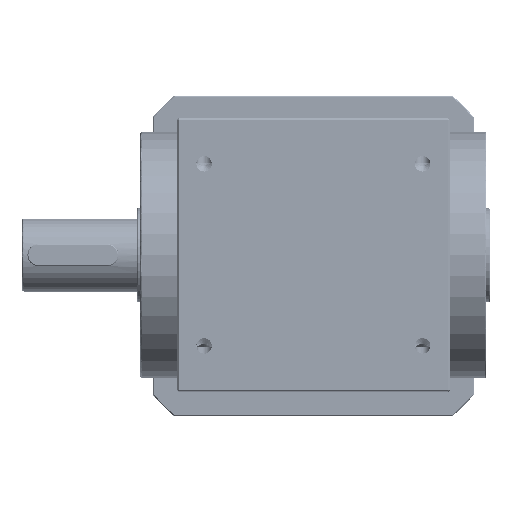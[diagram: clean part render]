
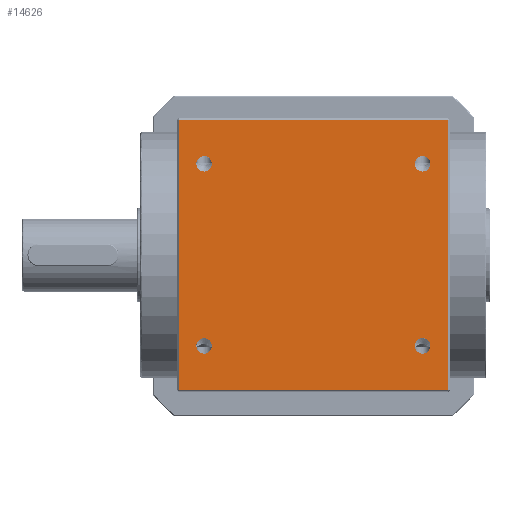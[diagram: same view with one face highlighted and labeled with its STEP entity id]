
A CAD part, top view. The second image highlights one B-rep face of the part: STEP entity #14626.
In plain terms, the highlighted planar face has unit normal (0, 0, 1) as drawn and (0, 1, 0) by its records, which use the part's own axes.
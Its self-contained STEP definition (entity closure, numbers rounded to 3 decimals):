
#27 = AXIS2_PLACEMENT_3D ( 'NONE', #43677, #43511, #43486 ) ;
#388 = VERTEX_POINT ( 'NONE', #97197 ) ;
#1314 = CIRCLE ( 'NONE', #44054, 4.25 ) ;
#1973 = ORIENTED_EDGE ( 'NONE', *, *, #13237, .F. ) ;
#1979 = EDGE_LOOP ( 'NONE', ( #126137, #143293 ) ) ;
#3452 = DIRECTION ( 'NONE',  ( 0., 0., -1. ) ) ;
#3808 = DIRECTION ( 'NONE',  ( 0., -1., 0. ) ) ;
#3938 = CARTESIAN_POINT ( 'NONE',  ( -75., 75., 75. ) ) ;
#5117 = PLANE ( 'NONE',  #50382 ) ;
#6454 = VERTEX_POINT ( 'NONE', #8479 ) ;
#7866 = DIRECTION ( 'NONE',  ( 0., 0., -1. ) ) ;
#8198 = DIRECTION ( 'NONE',  ( 0., 0., 1. ) ) ;
#8327 = DIRECTION ( 'NONE',  ( 0., 1., 0. ) ) ;
#8430 = EDGE_CURVE ( 'NONE', #21181, #15330, #100685, .T. ) ;
#8479 = CARTESIAN_POINT ( 'NONE',  ( -74., 75., 74. ) ) ;
#8508 = CARTESIAN_POINT ( 'NONE',  ( 60., 75., -50. ) ) ;
#9227 = EDGE_LOOP ( 'NONE', ( #132858, #73665, #142470, #75790 ) ) ;
#9347 = CARTESIAN_POINT ( 'NONE',  ( -74., 75., 75. ) ) ;
#10248 = CARTESIAN_POINT ( 'NONE',  ( 60., 75., -45.75 ) ) ;
#11798 = AXIS2_PLACEMENT_3D ( 'NONE', #61776, #140362, #73126 ) ;
#13059 = ORIENTED_EDGE ( 'NONE', *, *, #86286, .T. ) ;
#13237 = EDGE_CURVE ( 'NONE', #47676, #65146, #141779, .T. ) ;
#14626 = ADVANCED_FACE ( 'NONE', ( #90765, #25605, #23617, #22070, #15230 ), #5117, .F. ) ;
#15230 = FACE_OUTER_BOUND ( 'NONE', #9227, .T. ) ;
#15330 = VERTEX_POINT ( 'NONE', #93677 ) ;
#15901 = EDGE_LOOP ( 'NONE', ( #48401, #127241 ) ) ;
#17105 = AXIS2_PLACEMENT_3D ( 'NONE', #64047, #63888, #63865 ) ;
#17519 = LINE ( 'NONE', #46195, #19092 ) ;
#19092 = VECTOR ( 'NONE', #113716, 1000. ) ;
#21168 = DIRECTION ( 'NONE',  ( 0., 0., 1. ) ) ;
#21181 = VERTEX_POINT ( 'NONE', #55114 ) ;
#21320 = DIRECTION ( 'NONE',  ( 0., 1., 0. ) ) ;
#21334 = CARTESIAN_POINT ( 'NONE',  ( -60., 75., -50. ) ) ;
#21534 = AXIS2_PLACEMENT_3D ( 'NONE', #134434, #34714, #87062 ) ;
#22070 = FACE_BOUND ( 'NONE', #15901, .T. ) ;
#22822 = DIRECTION ( 'NONE',  ( 0., -1., 0. ) ) ;
#23617 = FACE_BOUND ( 'NONE', #109718, .T. ) ;
#24191 = AXIS2_PLACEMENT_3D ( 'NONE', #64332, #142896, #75690 ) ;
#25605 = FACE_BOUND ( 'NONE', #1979, .T. ) ;
#26110 = CARTESIAN_POINT ( 'NONE',  ( -60., 75., -54.25 ) ) ;
#30137 = VECTOR ( 'NONE', #116761, 1000. ) ;
#31396 = LINE ( 'NONE', #116723, #30137 ) ;
#33556 = CARTESIAN_POINT ( 'NONE',  ( 74., 75., -74. ) ) ;
#34481 = CIRCLE ( 'NONE', #49874, 4.25 ) ;
#34714 = DIRECTION ( 'NONE',  ( 0., 1., 0. ) ) ;
#35548 = EDGE_CURVE ( 'NONE', #57161, #92175, #31396, .T. ) ;
#41569 = VECTOR ( 'NONE', #7866, 1000. ) ;
#43237 = EDGE_CURVE ( 'NONE', #6454, #57161, #134896, .T. ) ;
#43474 = EDGE_CURVE ( 'NONE', #388, #50652, #44783, .T. ) ;
#43486 = DIRECTION ( 'NONE',  ( 0., 0., 1. ) ) ;
#43511 = DIRECTION ( 'NONE',  ( 0., 1., 0. ) ) ;
#43677 = CARTESIAN_POINT ( 'NONE',  ( 60., 75., -50. ) ) ;
#44054 = AXIS2_PLACEMENT_3D ( 'NONE', #90475, #22822, #101835 ) ;
#44783 = CIRCLE ( 'NONE', #21534, 4.25 ) ;
#44940 = EDGE_CURVE ( 'NONE', #65146, #47676, #137199, .T. ) ;
#44957 = ORIENTED_EDGE ( 'NONE', *, *, #139784, .T. ) ;
#46195 = CARTESIAN_POINT ( 'NONE',  ( 0., 75., 74. ) ) ;
#47153 = CIRCLE ( 'NONE', #24191, 4.25 ) ;
#47676 = VERTEX_POINT ( 'NONE', #133282 ) ;
#48401 = ORIENTED_EDGE ( 'NONE', *, *, #43474, .F. ) ;
#49874 = AXIS2_PLACEMENT_3D ( 'NONE', #21334, #21320, #21168 ) ;
#50382 = AXIS2_PLACEMENT_3D ( 'NONE', #3938, #3808, #3452 ) ;
#50652 = VERTEX_POINT ( 'NONE', #26110 ) ;
#51705 = EDGE_CURVE ( 'NONE', #92175, #111028, #115303, .T. ) ;
#52597 = EDGE_CURVE ( 'NONE', #50652, #388, #34481, .T. ) ;
#55114 = CARTESIAN_POINT ( 'NONE',  ( -60., 75., 54.25 ) ) ;
#57161 = VERTEX_POINT ( 'NONE', #139053 ) ;
#58428 = CARTESIAN_POINT ( 'NONE',  ( 74., 75., 74. ) ) ;
#60546 = EDGE_LOOP ( 'NONE', ( #44957, #13059 ) ) ;
#61776 = CARTESIAN_POINT ( 'NONE',  ( 60., 75., 50. ) ) ;
#63865 = DIRECTION ( 'NONE',  ( 0., 0., 1. ) ) ;
#63888 = DIRECTION ( 'NONE',  ( 0., -1., 0. ) ) ;
#64047 = CARTESIAN_POINT ( 'NONE',  ( -60., 75., 50. ) ) ;
#64332 = CARTESIAN_POINT ( 'NONE',  ( 60., 75., 50. ) ) ;
#64584 = VERTEX_POINT ( 'NONE', #118400 ) ;
#65146 = VERTEX_POINT ( 'NONE', #10248 ) ;
#73126 = DIRECTION ( 'NONE',  ( 0., 0., 1. ) ) ;
#73665 = ORIENTED_EDGE ( 'NONE', *, *, #51705, .F. ) ;
#75690 = DIRECTION ( 'NONE',  ( 0., 0., 1. ) ) ;
#75790 = ORIENTED_EDGE ( 'NONE', *, *, #43237, .F. ) ;
#86286 = EDGE_CURVE ( 'NONE', #118852, #64584, #47153, .T. ) ;
#86510 = EDGE_CURVE ( 'NONE', #15330, #21181, #1314, .T. ) ;
#87062 = DIRECTION ( 'NONE',  ( 0., 0., 1. ) ) ;
#88005 = EDGE_CURVE ( 'NONE', #6454, #111028, #17519, .T. ) ;
#90475 = CARTESIAN_POINT ( 'NONE',  ( -60., 75., 50. ) ) ;
#90765 = FACE_BOUND ( 'NONE', #60546, .T. ) ;
#92175 = VERTEX_POINT ( 'NONE', #33556 ) ;
#93677 = CARTESIAN_POINT ( 'NONE',  ( -60., 75., 45.75 ) ) ;
#94372 = VECTOR ( 'NONE', #120399, 1000. ) ;
#97197 = CARTESIAN_POINT ( 'NONE',  ( -60., 75., -45.75 ) ) ;
#98458 = CARTESIAN_POINT ( 'NONE',  ( 60., 75., 45.75 ) ) ;
#100685 = CIRCLE ( 'NONE', #17105, 4.25 ) ;
#101835 = DIRECTION ( 'NONE',  ( 0., 0., 1. ) ) ;
#102789 = CIRCLE ( 'NONE', #11798, 4.25 ) ;
#109718 = EDGE_LOOP ( 'NONE', ( #112382, #1973 ) ) ;
#111028 = VERTEX_POINT ( 'NONE', #58428 ) ;
#112382 = ORIENTED_EDGE ( 'NONE', *, *, #44940, .F. ) ;
#113716 = DIRECTION ( 'NONE',  ( 1., 0., 0. ) ) ;
#115303 = LINE ( 'NONE', #120233, #94372 ) ;
#116723 = CARTESIAN_POINT ( 'NONE',  ( -75., 75., -74. ) ) ;
#116761 = DIRECTION ( 'NONE',  ( 1., 0., 0. ) ) ;
#117026 = AXIS2_PLACEMENT_3D ( 'NONE', #8508, #8327, #8198 ) ;
#118400 = CARTESIAN_POINT ( 'NONE',  ( 60., 75., 54.25 ) ) ;
#118852 = VERTEX_POINT ( 'NONE', #98458 ) ;
#120233 = CARTESIAN_POINT ( 'NONE',  ( 74., 75., 75. ) ) ;
#120399 = DIRECTION ( 'NONE',  ( 0., 0., 1. ) ) ;
#126137 = ORIENTED_EDGE ( 'NONE', *, *, #8430, .T. ) ;
#127241 = ORIENTED_EDGE ( 'NONE', *, *, #52597, .F. ) ;
#132858 = ORIENTED_EDGE ( 'NONE', *, *, #88005, .T. ) ;
#133282 = CARTESIAN_POINT ( 'NONE',  ( 60., 75., -54.25 ) ) ;
#134434 = CARTESIAN_POINT ( 'NONE',  ( -60., 75., -50. ) ) ;
#134896 = LINE ( 'NONE', #9347, #41569 ) ;
#137199 = CIRCLE ( 'NONE', #27, 4.25 ) ;
#139053 = CARTESIAN_POINT ( 'NONE',  ( -74., 75., -74. ) ) ;
#139784 = EDGE_CURVE ( 'NONE', #64584, #118852, #102789, .T. ) ;
#140362 = DIRECTION ( 'NONE',  ( 0., -1., 0. ) ) ;
#141779 = CIRCLE ( 'NONE', #117026, 4.25 ) ;
#142470 = ORIENTED_EDGE ( 'NONE', *, *, #35548, .F. ) ;
#142896 = DIRECTION ( 'NONE',  ( 0., -1., 0. ) ) ;
#143293 = ORIENTED_EDGE ( 'NONE', *, *, #86510, .T. ) ;
